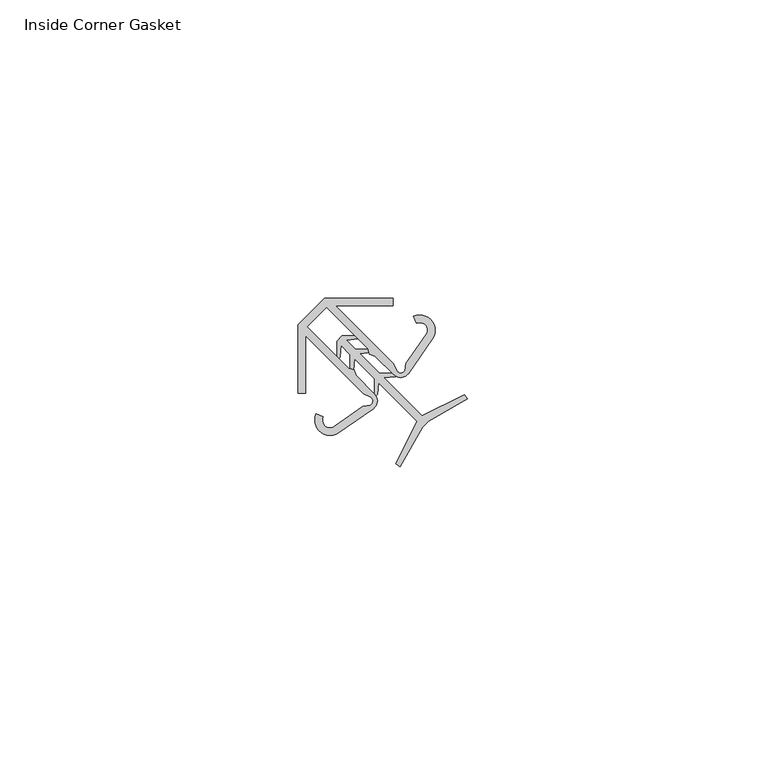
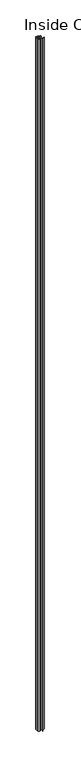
"""IFC4 building model written with IfcOpenShell, lengths in millimetres: furniture geometry, Accessories-Teknion-FHGN-AI_Healthcare-Inside_Corner_Gasket-R2021 : Inside Corner Gasket."""

from ifc_helpers import new_model, si_unit, point, frame_2d, origin, origin_with_axes, place, context, project, spatial, polyline, circle_curve, trimmed, segment, composite_curve, outline, extrude, source, transform, mapped, element, save


def inside_corner_gasket_a9b684a5(model_context):
    return source(origin(), model_context, "Body", "SweptSolid", [
        extrude(outline(composite_curve([segment(polyline([(-2.7813781, 15.4541762), (1.7087497, 19.944304), (13.1389976, 19.944304), (13.1389976, 18.6743041), (3.5175655, 18.6743041), (13.2821772, 8.9096921), (13.8093033, 7.6678607)]), True, "CONTINUOUS"), segment(trimmed(circle_curve(frame_2d((14.4381394, 8.2042713)), 0.8265416), [point((13.8093033, 7.6678607))], [point((15.1505687, 7.7852062))], True, "CARTESIAN"), True, "CONTINUOUS"), segment(polyline([(15.1505687, 7.7852062), (15.3672645, 8.9817893), (18.7393286, 13.8207015)]), True, "CONTINUOUS"), segment(trimmed(circle_curve(frame_2d((17.6821679, 14.5573989)), 1.2885309), [point((18.7393286, 13.8207015))], [point((17.1519386, 15.7317791))], True, "CARTESIAN"), True, "CONTINUOUS"), segment(polyline([(17.1519386, 15.7317791), (16.6219515, 16.8683401)]), True, "CONTINUOUS"), segment(trimmed(circle_curve(frame_2d((17.6892142, 14.5524897)), 2.5499436), [point((16.6219515, 16.8683401))], [point((19.7812868, 13.0945992))], False, "CARTESIAN"), True, "CONTINUOUS"), segment(polyline([(19.7812868, 13.0945992), (15.7401425, 7.2955581)]), True, "CONTINUOUS"), segment(trimmed(circle_curve(frame_2d((14.4376932, 8.2031884)), 1.5875034), [point((15.7401425, 7.2955581))], [point((13.3126393, 7.0831791))], False, "CARTESIAN"), True, "CONTINUOUS"), segment(polyline([(13.3126393, 7.0831791), (10.1742528, 10.2215653), (9.2016797, 10.4997805), (8.982757, 11.4130612), (1.9781572, 18.4176604), (-1.2547345, 15.1847687), (5.7498647, 8.1801689), (6.6631454, 7.9612462), (6.9413606, 6.9886731), (10.0797468, 3.8502866)]), True, "CONTINUOUS"), segment(trimmed(circle_curve(frame_2d((8.9597374, 2.7252327)), 1.5875034), [point((10.0797468, 3.8502866))], [point((9.8673678, 1.4227834))], False, "CARTESIAN"), True, "CONTINUOUS"), segment(polyline([(9.8673678, 1.4227834), (4.0683267, -2.6183609)]), True, "CONTINUOUS"), segment(trimmed(circle_curve(frame_2d((2.6104362, -0.5262883)), 2.5499436), [point((4.0683267, -2.6183609))], [point((0.2945858, 0.5409744))], False, "CARTESIAN"), True, "CONTINUOUS"), segment(polyline([(0.2945858, 0.5409744), (1.4311468, 0.0109873)]), True, "CONTINUOUS"), segment(trimmed(circle_curve(frame_2d((2.605527, -0.519242)), 1.2885309), [point((1.4311468, 0.0109873))], [point((3.3422244, -1.5764027))], True, "CARTESIAN"), True, "CONTINUOUS"), segment(polyline([(3.3422244, -1.5764027), (8.1811366, 1.7956614), (9.3777197, 2.0123572)]), True, "CONTINUOUS"), segment(trimmed(circle_curve(frame_2d((8.9586546, 2.7247865)), 0.8265416), [point((9.3777197, 2.0123572))], [point((9.4950652, 3.3536226))], True, "CARTESIAN"), True, "CONTINUOUS"), segment(polyline([(9.4950652, 3.3536226), (8.2532338, 3.8807487), (-1.5113782, 13.6453604), (-1.5113782, 4.0239283), (-2.7813781, 4.0239283), (-2.7813781, 15.4541762)]), True, "CONTINUOUS")], self_intersect=False)), origin_with_axes(), (0.0, 0.0, 1.0), 3048.0),
        extrude(outline(polyline([(3.7498336, 12.720021), (4.6478395, 13.6180275), (7.9140833, 13.6180178), (7.329021, 13.0912254), (5.3622712, 12.8992157), (6.8880193, 11.3734677), (10.152099, 11.373458), (9.5627556, 10.8428109), (7.6093801, 10.6521069), (10.9275919, 7.3338952), (14.1668667, 7.3338856), (13.573661, 6.7997608), (11.6495713, 6.611916), (18.0677877, 0.1936996), (25.1737882, 3.7313772), (25.6944827, 3.0403922), (19.1178122, -0.7099945), (18.0778556, -1.7499511), (14.3274688, -8.3266217), (13.6364838, -7.8059271), (17.1741615, -0.6999266), (10.7559451, 5.7182898), (10.5681003, 3.7942001), (10.0339754, 3.2009944), (10.0339658, 6.4402692), (6.7157541, 9.7584809), (6.5250502, 7.8051055), (5.994403, 7.2157621), (5.9943933, 10.4798418), (4.4686453, 12.0055898), (4.2766357, 10.03884), (3.7498432, 9.4537778), (3.7498336, 12.720021)])), origin_with_axes(), (0.0, 0.0, 1.0), 3048.0),
    ])


if __name__ == "__main__":
    model = new_model("IFC4")
    model_context = context("Model", 3, world=origin())
    ifc_project = project(units=[si_unit("LENGTHUNIT", "METRE", prefix="MILLI")], contexts=[model_context])
    site = spatial("IfcSite", under=ifc_project)
    building = spatial("IfcBuilding", under=site)
    placement = place(None, origin())
    inside_corner_gasket_shape = inside_corner_gasket_a9b684a5(model_context)
    element("IfcFurniture", 1, ObjectType="Accessories-Teknion-FHGN-AI_Healthcare-Inside_Corner_Gasket-R2021 : Inside Corner Gasket", at=placement, inside=building, context=model_context, shape_type="MappedRepresentation", body=[
        mapped(inside_corner_gasket_shape, transform((0.0, 0.0, 0.0), x_axis=(1.0, 0.0, 0.0), y_axis=(0.0, 1.0, 0.0), z_axis=(0.0, 0.0, 1.0))),
    ])
    save(model, "model.ifc")
